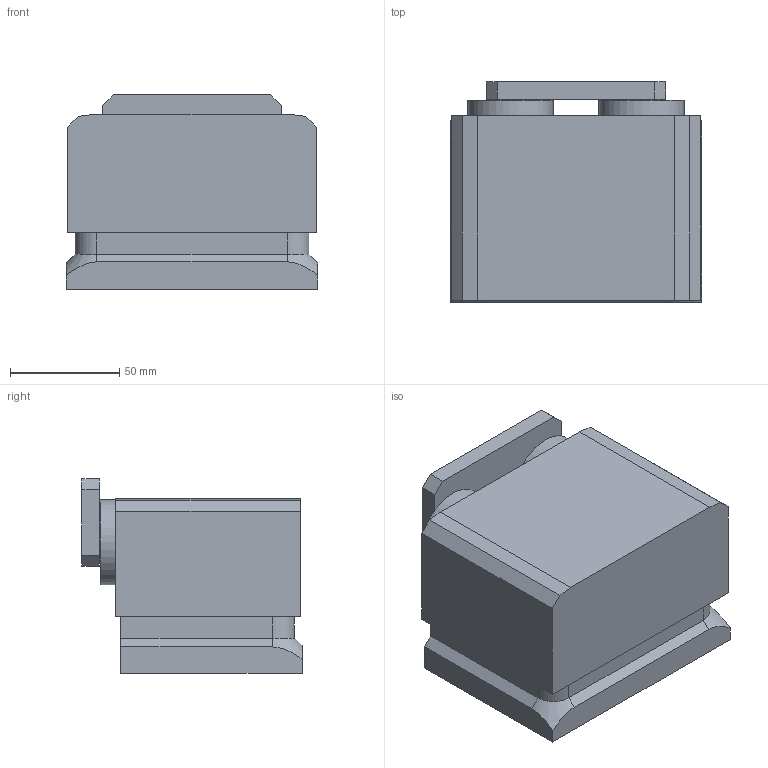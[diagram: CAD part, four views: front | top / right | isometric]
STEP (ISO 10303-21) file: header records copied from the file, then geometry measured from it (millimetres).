
FILE_DESCRIPTION(/* description */ ('Stopper SD-260-DW-09-E'),/* implementation_level */ '2;1');
FILE_NAME(/* name */ 'C:\Marketing\01_Versamove-SPU_STEP-Dateien-Homepage\Versamove plus\Stopper\K503022261_Stopper_SD-260-DW-09.stp',/* time_stamp */ '2017-02-01T13:27:30+01:00',/* author */ ('herbert.engels'),/* organization */ (''),/* preprocessor_version */ 'ST-DEVELOPER v15.6',/* originating_system */ 'Autodesk Inventor 2015',/* authorisation */ '');
FILE_SCHEMA (('CONFIG_CONTROL_DESIGN'));
Length unit declared in the file: millimetre
Products named in the file (1): T-ENG556630
Bounding box: 115 x 100.8 x 89 mm (x, y, z)
Volume: 696698.3 mm3; surface area: 88267.9 mm2
Topology: 2 solids, 6 shells, 97 faces, 229 edges, 152 vertices
Faces by surface type: plane 62, cylinder 29, cone 6
Full cylindrical faces by diameter (mm): 3.4 x1, 8.5 x4, 8.7 x2, 16 x2, 20 x1, 20.2 x1, 39 x2
Entity records: 2956 total; most frequent: CARTESIAN_POINT 677, DIRECTION 432, ORIENTED_EDGE 410, EDGE_CURVE 205, LINE 156, VECTOR 156, VERTEX_POINT 145, AXIS2_PLACEMENT_3D 138
